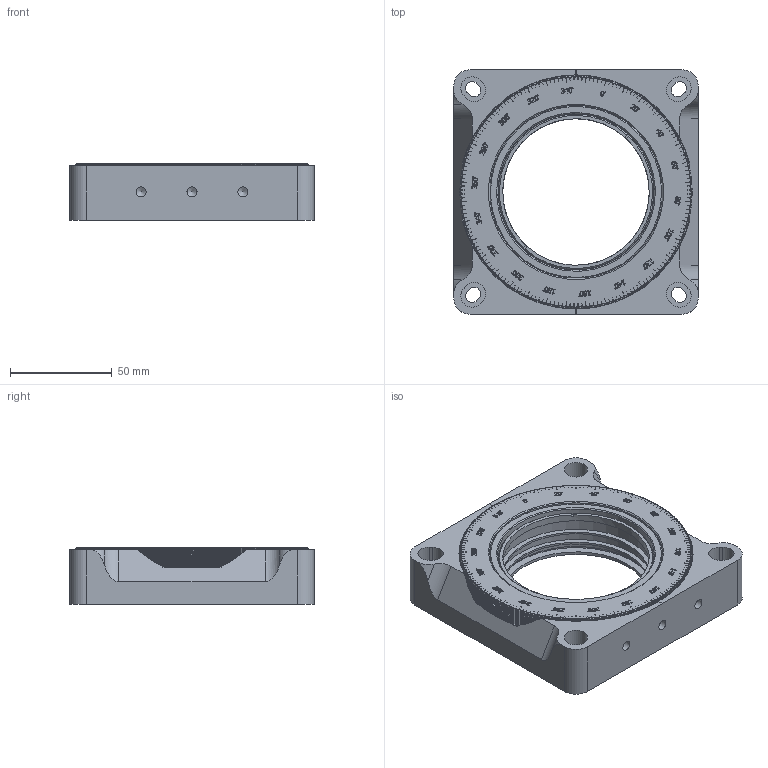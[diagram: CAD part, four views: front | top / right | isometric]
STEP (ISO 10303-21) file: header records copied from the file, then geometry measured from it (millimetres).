
FILE_DESCRIPTION(/* description */ (''),/* implementation_level */ '2;1');
FILE_NAME(/* name */ 'U:\KONSTRUKTORIAI\DOKUMENTACIJA\5\5PHH50-3\step\5PHH50-3.stp',/* time_stamp */ '2017-03-01T08:26:27+02:00',/* author */ ('dsgn33'),/* organization */ (''),/* preprocessor_version */ 'ST-DEVELOPER v15.2',/* originating_system */ 'Autodesk Inventor 2014',/* authorisation */ '');
FILE_SCHEMA (('AUTOMOTIVE_DESIGN { 1 0 10303 214 3 1 1 }'));
Products named in the file (2): Part4; Assembly2
Bounding box: 120 x 120 x 27.9 mm (x, y, z)
Volume: 237392.9 mm3; surface area: 70590.5 mm2
Topology: 5 solids, 14 shells, 4156 faces, 11896 edges, 7914 vertices
Faces by surface type: plane 2253, bspline 791, cylinder 583, cone 521, torus 8
Full cylindrical faces by diameter (mm): 2 x2, 2.013 x6, 4.917 x3, 4.978 x3, 72 x4, 76.2 x1, 76.8 x2, 77 x1, 79.2 x1, 85 x5, 88 x4, 107 x4, 110 x5
Entity records: 140029 total; most frequent: CARTESIAN_POINT 38340, ORIENTED_EDGE 23594, DIRECTION 17906, EDGE_CURVE 11797, VERTEX_POINT 7883, LINE 7186, VECTOR 7186, AXIS2_PLACEMENT_3D 5360
